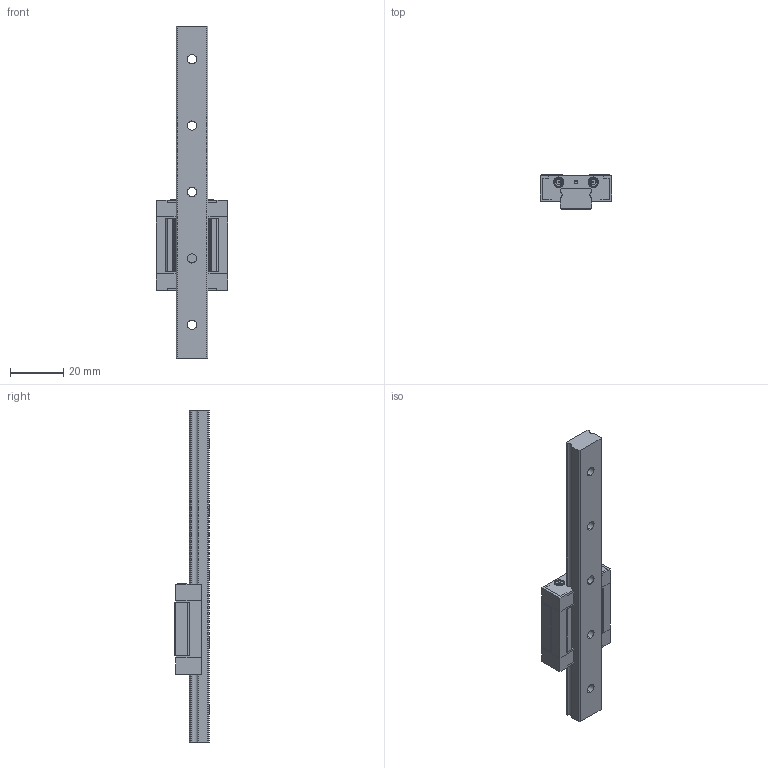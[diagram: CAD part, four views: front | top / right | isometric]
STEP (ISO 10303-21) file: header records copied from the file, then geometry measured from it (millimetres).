
FILE_DESCRIPTION (( 'STEP AP214' ), '1' );
FILE_NAME ('FBXX12NS-SS.STEP', '2022-08-06T17:47:39', ( 'JST' ), ( 'JST' ), 'SwSTEP 2.0', 'SolidWorks 2016', '' );
FILE_SCHEMA (( 'AUTOMOTIVE_DESIGN' ));
Length unit declared in the file: millimetre
Products named in the file (8): 12NS賑輸; 12N絳寢; M2.0蹟佪; 12NS-SS賑輸; FBXX12NS-SS; 12NS-SS滅鳥え; 12NS悜遠釱; 12NS傷裔
Assembly tree (12 placements, depth 3):
  FBXX12NS-SS
    12N絳寢
    12NS-SS賑輸
      12NS悜遠釱
      12NS賑輸
      12NS-SS滅鳥え  x2
      12NS傷裔  x2
      M2.0蹟佪  x4
Bounding box: 27 x 13 x 125 mm (x, y, z)
Volume: 16734.7 mm3; surface area: 12620.7 mm2
Topology: 11 solids, 11 shells, 526 faces, 1433 edges, 940 vertices
Faces by surface type: cylinder 259, plane 221, cone 26, bspline 12, torus 8
Entity records: 12331 total; most frequent: CARTESIAN_POINT 4819, ORIENTED_EDGE 1434, DIRECTION 1379, EDGE_CURVE 717, VERTEX_POINT 470, AXIS2_PLACEMENT_3D 461, VECTOR 457, LINE 457
